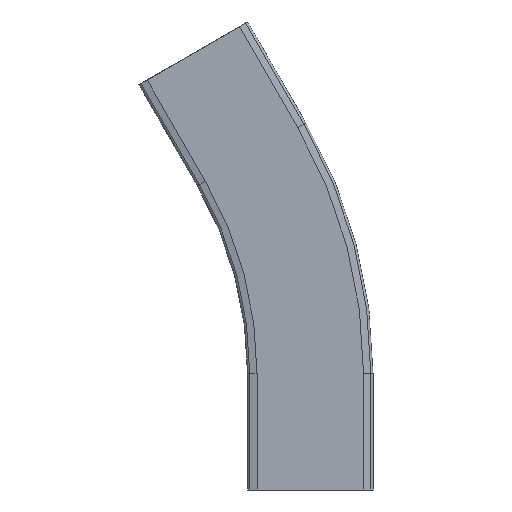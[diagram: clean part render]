
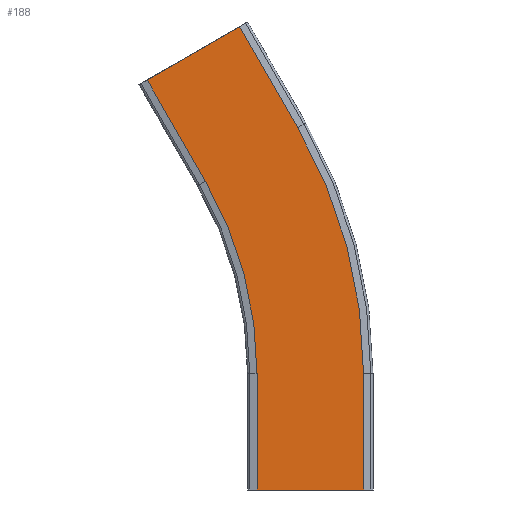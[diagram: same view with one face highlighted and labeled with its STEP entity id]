
A CAD part, front view. The second image highlights one B-rep face of the part: STEP entity #188.
In plain terms, the highlighted planar face has unit normal (0, -1, 0).
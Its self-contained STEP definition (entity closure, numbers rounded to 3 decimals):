
#75=CARTESIAN_POINT('',(-48.582,-11.,317.532));
#76=VERTEX_POINT('',#75);
#107=CARTESIAN_POINT('',(-111.802,-11.,281.032));
#108=VERTEX_POINT('',#107);
#115=CARTESIAN_POINT('',(-48.582,-11.,317.532));
#116=DIRECTION('',(-0.866,0.,-0.5));
#117=VECTOR('',#116,73.);
#118=LINE('',#115,#117);
#119=EDGE_CURVE('',#76,#108,#118,.T.);
#124=CARTESIAN_POINT('',(109.957,-11.,42.933));
#125=DIRECTION('',(0.0,-1.0,0.0));
#126=DIRECTION('',(0.5,0.0,-0.866));
#127=AXIS2_PLACEMENT_3D('',#124,#125,#126);
#128=PLANE('',#127);
#129=ORIENTED_EDGE('',*,*,#119,.T.);
#130=CARTESIAN_POINT('',(-71.802,-11.,211.75));
#131=VERTEX_POINT('',#130);
#132=CARTESIAN_POINT('',(-71.802,-11.,211.75));
#133=DIRECTION('',(-0.5,0.,0.866));
#134=VECTOR('',#133,80.);
#135=LINE('',#132,#134);
#136=EDGE_CURVE('',#131,#108,#135,.T.);
#137=ORIENTED_EDGE('',*,*,#136,.F.);
#138=CARTESIAN_POINT('',(-36.5,-11.,80.0));
#139=VERTEX_POINT('',#138);
#140=CARTESIAN_POINT('',(-300.0,-11.,80.0));
#141=DIRECTION('',(0.0,-1.0,0.0));
#142=DIRECTION('',(1.0,0.0,0.0));
#143=AXIS2_PLACEMENT_3D('',#140,#141,#142);
#144=CIRCLE('',#143,263.5);
#145=EDGE_CURVE('',#139,#131,#144,.T.);
#146=ORIENTED_EDGE('',*,*,#145,.F.);
#147=CARTESIAN_POINT('',(-36.5,-11.,0.0));
#148=VERTEX_POINT('',#147);
#149=CARTESIAN_POINT('',(-36.5,-11.,0.0));
#150=DIRECTION('',(0.0,0.0,1.0));
#151=VECTOR('',#150,80.0);
#152=LINE('',#149,#151);
#153=EDGE_CURVE('',#148,#139,#152,.T.);
#154=ORIENTED_EDGE('',*,*,#153,.F.);
#155=CARTESIAN_POINT('',(36.5,-11.,0.0));
#156=VERTEX_POINT('',#155);
#157=CARTESIAN_POINT('',(-36.5,-11.,0.0));
#158=DIRECTION('',(1.0,0.0,0.0));
#159=VECTOR('',#158,73.);
#160=LINE('',#157,#159);
#161=EDGE_CURVE('',#148,#156,#160,.T.);
#162=ORIENTED_EDGE('',*,*,#161,.T.);
#163=CARTESIAN_POINT('',(36.5,-11.,80.0));
#164=VERTEX_POINT('',#163);
#165=CARTESIAN_POINT('',(36.5,-11.,0.0));
#166=DIRECTION('',(0.0,0.0,1.0));
#167=VECTOR('',#166,80.0);
#168=LINE('',#165,#167);
#169=EDGE_CURVE('',#156,#164,#168,.T.);
#170=ORIENTED_EDGE('',*,*,#169,.T.);
#171=CARTESIAN_POINT('',(-8.582,-11.,248.25));
#172=VERTEX_POINT('',#171);
#173=CARTESIAN_POINT('',(-300.0,-11.,80.0));
#174=DIRECTION('',(0.0,-1.0,0.0));
#175=DIRECTION('',(1.0,0.0,0.0));
#176=AXIS2_PLACEMENT_3D('',#173,#174,#175);
#177=CIRCLE('',#176,336.5);
#178=EDGE_CURVE('',#164,#172,#177,.T.);
#179=ORIENTED_EDGE('',*,*,#178,.T.);
#180=CARTESIAN_POINT('',(-8.582,-11.,248.25));
#181=DIRECTION('',(-0.5,0.,0.866));
#182=VECTOR('',#181,80.);
#183=LINE('',#180,#182);
#184=EDGE_CURVE('',#172,#76,#183,.T.);
#185=ORIENTED_EDGE('',*,*,#184,.T.);
#186=EDGE_LOOP('',(#129,#137,#146,#154,#162,#170,#179,#185));
#187=FACE_OUTER_BOUND('',#186,.T.);
#188=ADVANCED_FACE('',(#187),#128,.T.);
